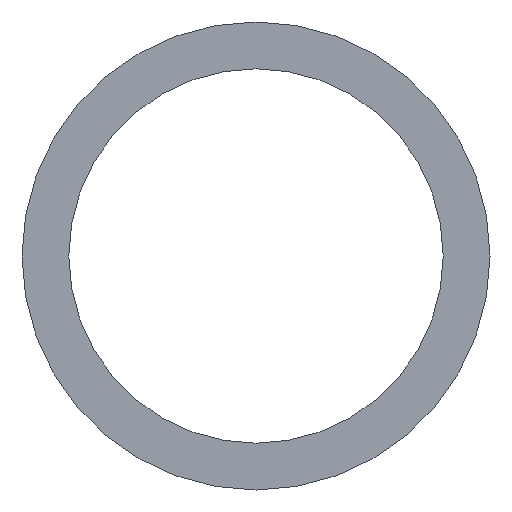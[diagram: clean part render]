
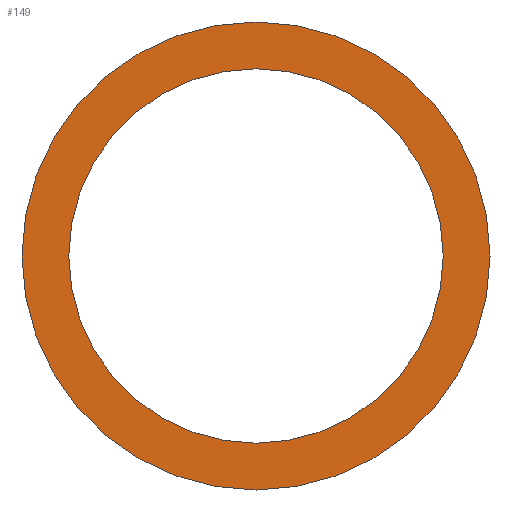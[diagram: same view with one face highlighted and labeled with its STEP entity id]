
A CAD part, front view. The second image highlights one B-rep face of the part: STEP entity #149.
In plain terms, the highlighted planar face has unit normal (0, -1, 0).
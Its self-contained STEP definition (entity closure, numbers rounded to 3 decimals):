
#113 = CARTESIAN_POINT ( 'NONE',  ( 0., -43.5, 0. ) ) ;
#145 = PLANE ( 'NONE',  #6017 ) ;
#149 = ADVANCED_FACE ( 'NONE', ( #2167, #1796 ), #145, .F. ) ;
#282 = VERTEX_POINT ( 'NONE', #6410 ) ;
#1061 = AXIS2_PLACEMENT_3D ( 'NONE', #113, #1980, #6785 ) ;
#1116 = CARTESIAN_POINT ( 'NONE',  ( 0., -43.5, -150. ) ) ;
#1270 = CARTESIAN_POINT ( 'NONE',  ( 0., -43.5, 187.5 ) ) ;
#1345 = CARTESIAN_POINT ( 'NONE',  ( 0., -43.5, 0. ) ) ;
#1477 = EDGE_CURVE ( 'NONE', #2859, #6631, #1873, .T. ) ;
#1567 = CIRCLE ( 'NONE', #1061, 187.5 ) ;
#1729 = AXIS2_PLACEMENT_3D ( 'NONE', #5739, #4576, #4551 ) ;
#1796 = FACE_OUTER_BOUND ( 'NONE', #5672, .T. ) ;
#1832 = AXIS2_PLACEMENT_3D ( 'NONE', #1345, #1948, #6053 ) ;
#1873 = CIRCLE ( 'NONE', #3261, 187.5 ) ;
#1948 = DIRECTION ( 'NONE',  ( 0., -1., 0. ) ) ;
#1980 = DIRECTION ( 'NONE',  ( 0., -1., 0. ) ) ;
#2167 = FACE_BOUND ( 'NONE', #4979, .T. ) ;
#2255 = EDGE_CURVE ( 'NONE', #6631, #2859, #1567, .T. ) ;
#2463 = DIRECTION ( 'NONE',  ( 0., -1., 0. ) ) ;
#2534 = ORIENTED_EDGE ( 'NONE', *, *, #2255, .T. ) ;
#2859 = VERTEX_POINT ( 'NONE', #2879 ) ;
#2879 = CARTESIAN_POINT ( 'NONE',  ( 0., -43.5, -187.5 ) ) ;
#3040 = DIRECTION ( 'NONE',  ( 0., 0., -1. ) ) ;
#3093 = CIRCLE ( 'NONE', #1832, 150. ) ;
#3261 = AXIS2_PLACEMENT_3D ( 'NONE', #6713, #2463, #3040 ) ;
#4424 = CARTESIAN_POINT ( 'NONE',  ( 0., -43.5, 150. ) ) ;
#4551 = DIRECTION ( 'NONE',  ( 0., 0., -1. ) ) ;
#4576 = DIRECTION ( 'NONE',  ( 0., -1., 0. ) ) ;
#4607 = DIRECTION ( 'NONE',  ( 0., 0., 1. ) ) ;
#4711 = ORIENTED_EDGE ( 'NONE', *, *, #6247, .F. ) ;
#4979 = EDGE_LOOP ( 'NONE', ( #5447, #4711 ) ) ;
#5266 = VERTEX_POINT ( 'NONE', #1116 ) ;
#5447 = ORIENTED_EDGE ( 'NONE', *, *, #6613, .F. ) ;
#5672 = EDGE_LOOP ( 'NONE', ( #6912, #2534 ) ) ;
#5739 = CARTESIAN_POINT ( 'NONE',  ( 0., -43.5, 0. ) ) ;
#6017 = AXIS2_PLACEMENT_3D ( 'NONE', #4424, #7535, #4607 ) ;
#6053 = DIRECTION ( 'NONE',  ( 0., 0., -1. ) ) ;
#6247 = EDGE_CURVE ( 'NONE', #282, #5266, #6484, .T. ) ;
#6410 = CARTESIAN_POINT ( 'NONE',  ( 0., -43.5, 150. ) ) ;
#6484 = CIRCLE ( 'NONE', #1729, 150. ) ;
#6613 = EDGE_CURVE ( 'NONE', #5266, #282, #3093, .T. ) ;
#6631 = VERTEX_POINT ( 'NONE', #1270 ) ;
#6713 = CARTESIAN_POINT ( 'NONE',  ( 0., -43.5, 0. ) ) ;
#6785 = DIRECTION ( 'NONE',  ( 0., 0., -1. ) ) ;
#6912 = ORIENTED_EDGE ( 'NONE', *, *, #1477, .T. ) ;
#7535 = DIRECTION ( 'NONE',  ( 0., 1., 0. ) ) ;
